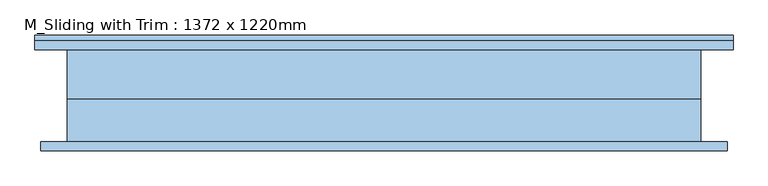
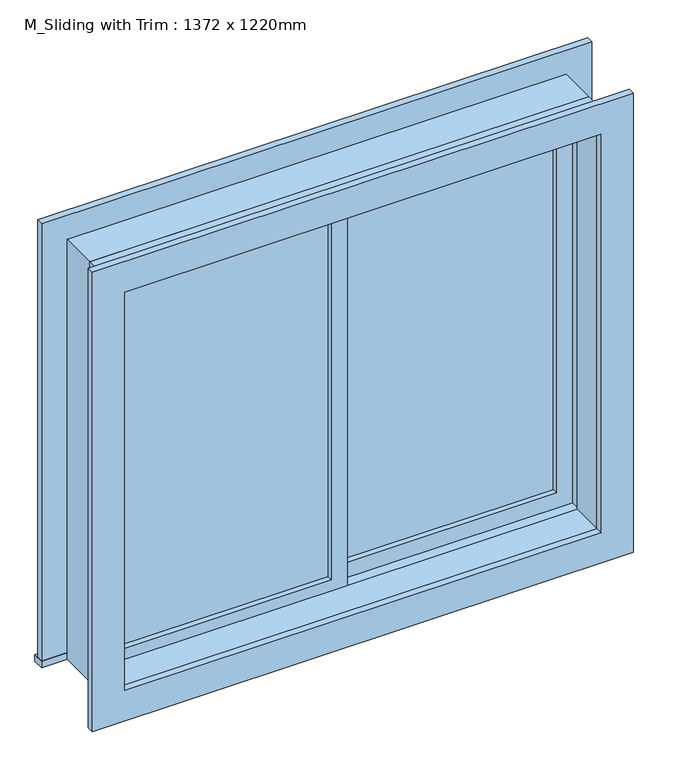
"""IFC4 building model written with IfcOpenShell, lengths in millimetres: window geometry, M_Sliding with Trim : 1372 x 1220mm."""

from ifc_helpers import new_model, si_unit, frame, origin, place, context, project, spatial, polyline, outline, extrude, source, transform, mapped, element, save


def m_sliding_with_trim_1372_x_1220mm_1cbd48f5(model_context):
    return source(origin(), model_context, "Body", "SweptSolid", [
        extrude(outline(polyline([(-622.5, 20.675), (-22.225, 20.675), (-22.225, 7.975), (-622.5, 7.975), (-622.5, 20.675)])), frame((0.0, 0.0, 978.5), z_axis=(0.0, 0.0, 1.0), x_axis=(1.0, 0.0, 0.0)), (0.0, 0.0, 1.0), 1093.0),
        extrude(outline(polyline([(2115.95, -666.95), (934.05, -666.95), (934.05, 22.225), (2115.95, 22.225), (2115.95, -666.95)]), holes=[polyline([(2071.5, -622.5), (2071.5, -22.225), (978.5, -22.225), (978.5, -622.5), (2071.5, -622.5)])]), frame((0.0, -7.9, 0.0), z_axis=(0.0, 1.0, 0.0), x_axis=(0.0, 0.0, 1.0)), (0.0, 0.0, 1.0), 44.45),
        extrude(outline(polyline([(-755.95, 131.7), (755.95, 131.7), (755.95, 100.0), (-755.95, 100.0), (-755.95, 131.7)])), frame((0.0, 0.0, 915.0), z_axis=(0.0, 0.0, 1.0), x_axis=(1.0, 0.0, 0.0)), (0.0, 0.0, 1.0), 19.05),
        extrude(outline(polyline([(2115.95, -666.95), (2115.95, 666.95), (934.05, 666.95), (934.05, 755.95), (2204.95, 755.95), (2204.95, -755.95), (934.05, -755.95), (934.05, -666.95), (2115.95, -666.95)])), frame((0.0, 100.0, 0.0), z_axis=(0.0, 1.0, 0.0), x_axis=(0.0, 0.0, 1.0)), (0.0, 0.0, 1.0), 19.0),
        extrude(outline(polyline([(2192.25, 743.25), (2192.25, -743.25), (857.75, -743.25), (857.75, 743.25), (2192.25, 743.25)]), holes=[polyline([(2103.25, 654.25), (946.75, 654.25), (946.75, -654.25), (2103.25, -654.25), (2103.25, 654.25)])]), frame((0.0, -119.0, 0.0), z_axis=(0.0, 1.0, 0.0), x_axis=(0.0, 0.0, 1.0)), (0.0, 0.0, 1.0), 19.0),
        extrude(outline(polyline([(622.5, 52.425), (22.225, 52.425), (22.225, 65.125), (622.5, 65.125), (622.5, 52.425)])), frame((0.0, 0.0, 978.5), z_axis=(0.0, 0.0, 1.0), x_axis=(1.0, 0.0, 0.0)), (0.0, 0.0, 1.0), 1093.0),
        extrude(outline(polyline([(2115.95, -22.225), (934.05, -22.225), (934.05, 666.95), (2115.95, 666.95), (2115.95, -22.225)]), holes=[polyline([(2071.5, 22.225), (2071.5, 622.5), (978.5, 622.5), (978.5, 22.225), (2071.5, 22.225)])]), frame((0.0, 36.55, 0.0), z_axis=(0.0, 1.0, 0.0), x_axis=(0.0, 0.0, 1.0)), (0.0, 0.0, 1.0), 44.45),
        extrude(outline(polyline([(2135.0, -686.0), (915.0, -686.0), (915.0, 686.0), (2135.0, 686.0), (2135.0, -686.0)]), holes=[polyline([(2103.25, -654.25), (2103.25, 654.25), (946.75, 654.25), (946.75, -654.25), (2103.25, -654.25)])]), frame((0.0, -100.0, 0.0), z_axis=(0.0, 1.0, 0.0), x_axis=(0.0, 0.0, 1.0)), (0.0, 0.0, 1.0), 92.1),
        extrude(outline(polyline([(2135.0, 686.0), (2135.0, -686.0), (915.0, -686.0), (915.0, 686.0), (2135.0, 686.0)]), holes=[polyline([(2115.95, 666.95), (934.05, 666.95), (934.05, -666.95), (2115.95, -666.95), (2115.95, 666.95)])]), frame((0.0, -7.9, 0.0), z_axis=(0.0, 1.0, 0.0), x_axis=(0.0, 0.0, 1.0)), (0.0, 0.0, 1.0), 107.9),
    ])


if __name__ == "__main__":
    model = new_model("IFC4")
    model_context = context("Model", 3, world=origin())
    ifc_project = project(units=[si_unit("LENGTHUNIT", "METRE", prefix="MILLI")], contexts=[model_context])
    site = spatial("IfcSite", under=ifc_project)
    building = spatial("IfcBuilding", under=site)
    placement = place(None, origin())
    m_sliding_with_trim_1372_x_1220mm_shape = m_sliding_with_trim_1372_x_1220mm_1cbd48f5(model_context)
    element("IfcWindow", 1, ObjectType="M_Sliding with Trim : 1372 x 1220mm", at=placement, inside=building, context=model_context, shape_type="MappedRepresentation", body=[
        mapped(m_sliding_with_trim_1372_x_1220mm_shape, transform((0.0, 0.0, 0.0), x_axis=(1.0, 0.0, 0.0), y_axis=(0.0, 1.0, 0.0), z_axis=(0.0, 0.0, 1.0))),
    ])
    save(model, "model.ifc")
